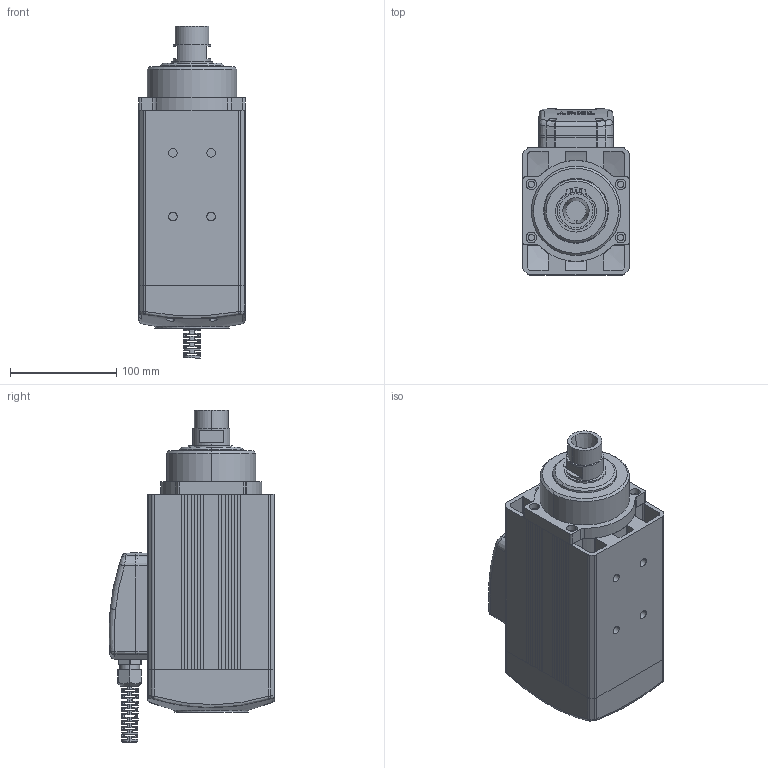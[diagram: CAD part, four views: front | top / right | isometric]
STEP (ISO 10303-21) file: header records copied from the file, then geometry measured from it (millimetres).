
FILE_DESCRIPTION (( 'STEP AP203' ), '1' );
FILE_NAME ('ARFM.3K-S Montaj ER25.STEP', '2019-11-25T14:08:15', ( '' ), ( '' ), 'SwSTEP 2.0', 'SolidWorks 2014', '' );
FILE_SCHEMA (( 'CONFIG_CONTROL_DESIGN' ));
Length unit declared in the file: millimetre
Products named in the file (14): ARFM.3K-S Gövdesi; Yeni 3K Tas Kapak K齭a; rekor1; klemens kutusu montaj tabansýz; Arfm.3Y Ön Toz Kapaðý 62 lik; 471-35 Sekman_98541A146; Klemens Kutusu  alt tabansýz; rekor2; Arfm.3Y Yeni Rotor Mili ER25; Etiket; ARFM.3K-S Montaj ER25; Klemens Kutusu Kapaðý Kademeli; rekor3; 3K Yeni 琄 Kapak
Assembly tree (13 placements, depth 3):
  ARFM.3K-S Montaj ER25
    3K Yeni 琄 Kapak
    Arfm.3Y Ön Toz Kapaðý 62 lik
    Etiket
    Yeni 3K Tas Kapak K齭a
    klemens kutusu montaj tabansýz
      Klemens Kutusu  alt tabansýz
      Klemens Kutusu Kapaðý Kademeli
      rekor1
      rekor2
      rekor3
    Arfm.3Y Yeni Rotor Mili ER25
    ARFM.3K-S Gövdesi
    471-35 Sekman_98541A146
Bounding box: 100 x 156.24 x 312.6 mm (x, y, z)
Volume: 2050199.3 mm3; surface area: 325614.8 mm2
Topology: 12 solids, 12 shells, 1392 faces, 3824 edges, 2456 vertices
Faces by surface type: plane 696, cylinder 412, cone 158, bspline 106, sphere 18, torus 2
Entity records: 55159 total; most frequent: CARTESIAN_POINT 19371, ORIENTED_EDGE 7632, DIRECTION 6533, EDGE_CURVE 3816, VERTEX_POINT 2456, AXIS2_PLACEMENT_3D 2290, VECTOR 1953, LINE 1953
